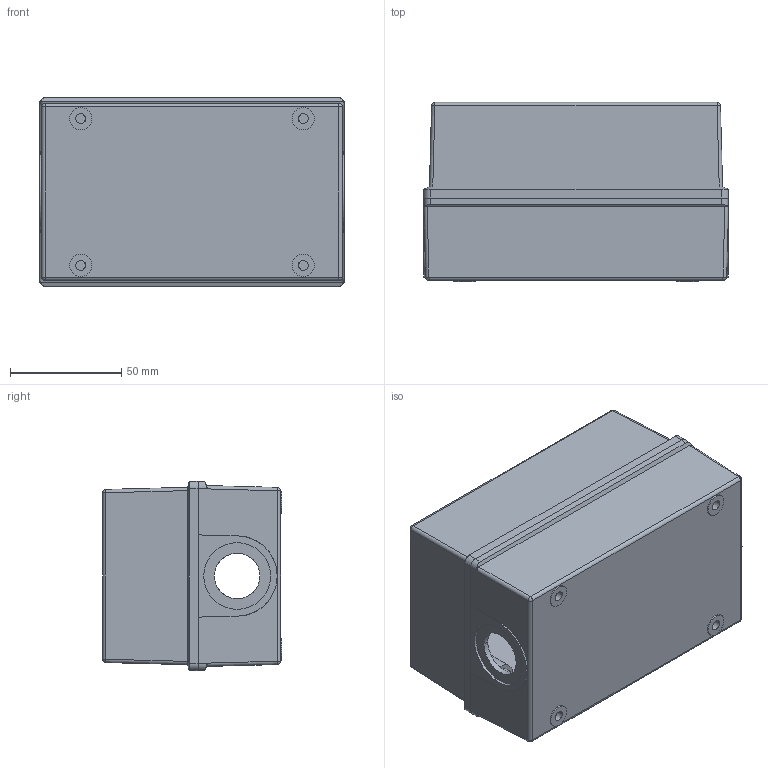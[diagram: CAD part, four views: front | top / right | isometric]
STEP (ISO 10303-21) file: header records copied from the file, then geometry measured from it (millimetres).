
FILE_DESCRIPTION((''),'2;1');
FILE_NAME('800F-2MX_ASM','2014-03-05T',('jqtang'),('Rockwell Automation'),'PRO/ENGINEER BY PARAMETRIC TECHNOLOGY CORPORATION, 2010140','PRO/ENGINEER BY PARAMETRIC TECHNOLOGY CORPORATION, 2010140','');
FILE_SCHEMA(('CONFIG_CONTROL_DESIGN'));
Length unit declared in the file: millimetre
Products named in the file (4): 18_102_572-05; 18_102_573; 40371-431-COVRSCRW; 800F-2MX_ASM
Assembly tree (6 placements, depth 2):
  800F-2MX_ASM
    18_102_572-05
    18_102_573
    40371-431-COVRSCRW  x4
Bounding box: 137 x 80.57 x 85 mm (x, y, z)
Volume: 186399.9 mm3; surface area: 120148.5 mm2
Topology: 6 solids, 6 shells, 484 faces, 1191 edges, 771 vertices
Faces by surface type: plane 235, cylinder 161, cone 68, sphere 8, torus 8, bspline 4
Entity records: 13211 total; most frequent: CARTESIAN_POINT 2766, DIRECTION 2214, ORIENTED_EDGE 2090, EDGE_CURVE 1045, AXIS2_PLACEMENT_3D 786, VERTEX_POINT 681, VECTOR 642, LINE 642
